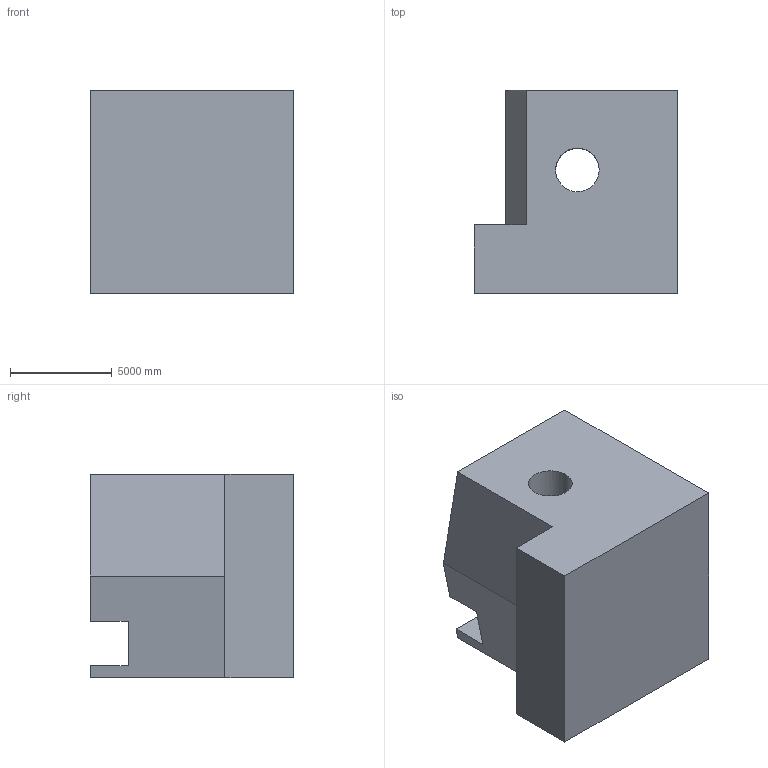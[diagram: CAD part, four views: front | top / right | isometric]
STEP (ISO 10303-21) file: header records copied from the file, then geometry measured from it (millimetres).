
FILE_DESCRIPTION (( 'STEP AP203' ), '1' );
FILE_NAME ('432.STEP', '2022-07-29T11:15:31', ( 'user' ), ( '' ), 'SwSTEP 2.0', 'SolidWorks 2021', '' );
FILE_SCHEMA (( 'CONFIG_CONTROL_DESIGN' ));
Length unit declared in the file: centimetre
Products named in the file (1): 432
Bounding box: 10000 x 10000 x 10000 mm (x, y, z)
Volume: 731070481509.1 mm3; surface area: 697192443 mm2
Topology: 1 solids, 1 shells, 27 faces, 75 edges, 50 vertices
Faces by surface type: plane 25, cylinder 2
Entity records: 938 total; most frequent: CARTESIAN_POINT 171, ORIENTED_EDGE 150, DIRECTION 129, EDGE_CURVE 75, LINE 65, VECTOR 65, VERTEX_POINT 50, AXIS2_PLACEMENT_3D 32
